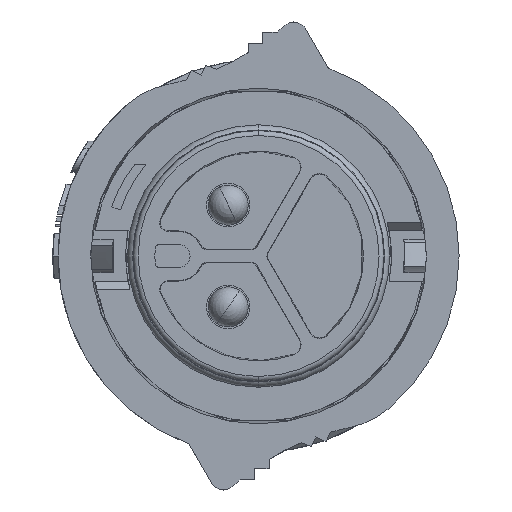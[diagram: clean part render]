
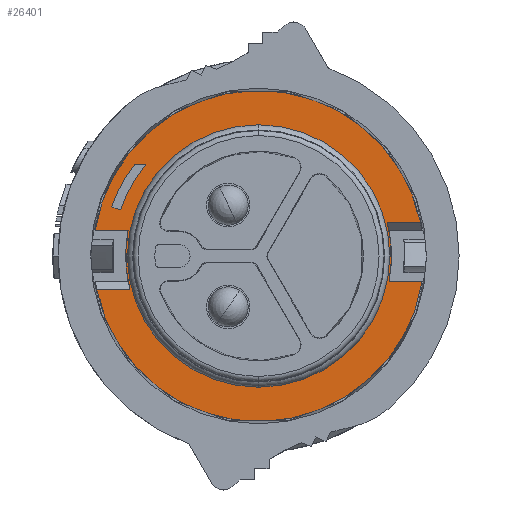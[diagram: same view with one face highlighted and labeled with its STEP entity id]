
A CAD part, left-side view. The second image highlights one B-rep face of the part: STEP entity #26401.
In plain terms, the highlighted planar face has unit normal (-1, 0, 0).
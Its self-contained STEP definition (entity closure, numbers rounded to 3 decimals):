
#3847=CARTESIAN_POINT('',(-16.7,0.,0.));
#3848=DIRECTION('',(-1.,0.,0.));
#3849=DIRECTION('',(0.,0.982,0.189));
#3850=AXIS2_PLACEMENT_3D('',#3847,#3848,#3849);
#3861=CARTESIAN_POINT('',(-16.7,0.,0.));
#3862=DIRECTION('',(-1.,0.,0.));
#3863=DIRECTION('',(0.,-0.982,-0.189));
#3864=AXIS2_PLACEMENT_3D('',#3861,#3862,#3863);
#3942=CARTESIAN_POINT('',(-16.7,-9.696,2.));
#3947=CARTESIAN_POINT('',(-16.7,0.,0.));
#3948=DIRECTION('',(-1.,0.,0.));
#3949=DIRECTION('',(0.,-0.979,0.202));
#3950=AXIS2_PLACEMENT_3D('',#3947,#3948,#3949);
#3991=DIRECTION('',(0.,1.,0.));
#3992=VECTOR('',#3991,2.002);
#3993=CARTESIAN_POINT('',(-16.7,7.694,-2.));
#3994=LINE('',#3993,#3992);
#3995=DIRECTION('',(0.,-1.,0.));
#3996=VECTOR('',#3995,1.978);
#3997=CARTESIAN_POINT('',(-16.7,9.786,1.5));
#3998=LINE('',#3997,#3996);
#3999=DIRECTION('',(0.,-1.,0.));
#4000=VECTOR('',#3999,2.002);
#4001=CARTESIAN_POINT('',(-16.7,-7.694,2.));
#4002=LINE('',#4001,#4000);
#4003=DIRECTION('',(0.,1.,0.));
#4004=VECTOR('',#4003,1.978);
#4005=CARTESIAN_POINT('',(-16.7,-9.786,-1.5));
#4006=LINE('',#4005,#4004);
#4007=CARTESIAN_POINT('',(-16.7,0.01,-0.132));
#4008=DIRECTION('',(-1.,0.,0.));
#4009=DIRECTION('',(0.,0.796,0.606));
#4010=AXIS2_PLACEMENT_3D('',#4007,#4008,#4009);
#4012=DIRECTION('',(0.,-0.949,-0.316));
#4013=VECTOR('',#4012,0.567);
#4014=CARTESIAN_POINT('',(-16.7,8.791,2.933));
#4015=LINE('',#4014,#4013);
#4016=CARTESIAN_POINT('',(-16.7,0.,0.));
#4017=DIRECTION('',(-1.,0.,0.));
#4018=DIRECTION('',(0.,0.775,0.632));
#4019=AXIS2_PLACEMENT_3D('',#4016,#4017,#4018);
#4021=DIRECTION('',(0.,1.,0.));
#4022=VECTOR('',#4021,0.67);
#4023=CARTESIAN_POINT('',(-16.7,6.741,5.5));
#4024=LINE('',#4023,#4022);
#4025=CARTESIAN_POINT('',(-16.7,0.,0.));
#4026=DIRECTION('',(-1.,0.,0.));
#4027=DIRECTION('',(0.,-0.065,0.998));
#4028=AXIS2_PLACEMENT_3D('',#4025,#4026,#4027);
#4030=DIRECTION('',(0.,0.,-1.));
#4031=VECTOR('',#4030,0.1);
#4032=CARTESIAN_POINT('',(-16.7,0.5,7.634));
#4033=LINE('',#4032,#4031);
#4034=DIRECTION('',(0.,1.,0.));
#4035=VECTOR('',#4034,0.1);
#4036=CARTESIAN_POINT('',(-16.7,7.533,0.5));
#4037=LINE('',#4036,#4035);
#4038=CARTESIAN_POINT('',(-16.7,0.,0.));
#4039=DIRECTION('',(-1.,0.,0.));
#4040=DIRECTION('',(0.,0.998,0.065));
#4041=AXIS2_PLACEMENT_3D('',#4038,#4039,#4040);
#4043=DIRECTION('',(0.,-1.,0.));
#4044=VECTOR('',#4043,0.1);
#4045=CARTESIAN_POINT('',(-16.7,7.634,-0.5));
#4046=LINE('',#4045,#4044);
#4047=DIRECTION('',(0.,0.,-1.));
#4048=VECTOR('',#4047,0.1);
#4049=CARTESIAN_POINT('',(-16.7,0.5,-7.533));
#4050=LINE('',#4049,#4048);
#4051=CARTESIAN_POINT('',(-16.7,0.,0.));
#4052=DIRECTION('',(-1.,0.,0.));
#4053=DIRECTION('',(0.,0.065,-0.998));
#4054=AXIS2_PLACEMENT_3D('',#4051,#4052,#4053);
#4056=DIRECTION('',(0.,0.,1.));
#4057=VECTOR('',#4056,0.1);
#4058=CARTESIAN_POINT('',(-16.7,-0.5,-7.634));
#4059=LINE('',#4058,#4057);
#4060=DIRECTION('',(0.,-1.,0.));
#4061=VECTOR('',#4060,0.1);
#4062=CARTESIAN_POINT('',(-16.7,-7.533,-0.5));
#4063=LINE('',#4062,#4061);
#4064=CARTESIAN_POINT('',(-16.7,0.,0.));
#4065=DIRECTION('',(-1.,0.,0.));
#4066=DIRECTION('',(0.,-0.998,-0.065));
#4067=AXIS2_PLACEMENT_3D('',#4064,#4065,#4066);
#4069=DIRECTION('',(0.,1.,0.));
#4070=VECTOR('',#4069,0.1);
#4071=CARTESIAN_POINT('',(-16.7,-7.634,0.5));
#4072=LINE('',#4071,#4070);
#4073=DIRECTION('',(0.,0.,1.));
#4074=VECTOR('',#4073,0.1);
#4075=CARTESIAN_POINT('',(-16.7,-0.5,7.533));
#4076=LINE('',#4075,#4074);
#4091=CARTESIAN_POINT('',(-16.7,9.696,-2.));
#4096=CARTESIAN_POINT('',(-16.7,0.,0.));
#4097=DIRECTION('',(-1.,0.,0.));
#4098=DIRECTION('',(0.,0.979,-0.202));
#4099=AXIS2_PLACEMENT_3D('',#4096,#4097,#4098);
#4152=CARTESIAN_POINT('',(-16.7,-0.5,7.634));
#4219=CARTESIAN_POINT('',(-16.7,0.,0.));
#4220=DIRECTION('',(1.,0.,0.));
#4221=DIRECTION('',(0.,0.998,0.066));
#4222=AXIS2_PLACEMENT_3D('',#4219,#4220,#4221);
#4229=CARTESIAN_POINT('',(-16.7,0.5,7.634));
#4236=CARTESIAN_POINT('',(-16.7,7.634,0.5));
#4243=CARTESIAN_POINT('',(-16.7,7.634,-0.5));
#4258=CARTESIAN_POINT('',(-16.7,0.,0.));
#4259=DIRECTION('',(1.,0.,0.));
#4260=DIRECTION('',(0.,0.066,-0.998));
#4261=AXIS2_PLACEMENT_3D('',#4258,#4259,#4260);
#4268=CARTESIAN_POINT('',(-16.7,0.5,-7.634));
#4275=CARTESIAN_POINT('',(-16.7,-0.5,-7.634));
#4290=CARTESIAN_POINT('',(-16.7,0.,0.));
#4291=DIRECTION('',(1.,0.,0.));
#4292=DIRECTION('',(0.,-0.998,-0.066));
#4293=AXIS2_PLACEMENT_3D('',#4290,#4291,#4292);
#4313=CARTESIAN_POINT('',(-16.7,0.,0.));
#4314=DIRECTION('',(1.,0.,0.));
#4315=DIRECTION('',(0.,-0.066,0.998));
#4316=AXIS2_PLACEMENT_3D('',#4313,#4314,#4315);
#20053=CARTESIAN_POINT('',(-16.7,9.786,1.5));
#20054=CARTESIAN_POINT('',(-16.7,7.807,1.5));
#20055=VERTEX_POINT('',#20053);
#20056=VERTEX_POINT('',#20054);
#20057=CARTESIAN_POINT('',(-16.7,-9.786,-1.5));
#20058=CARTESIAN_POINT('',(-16.7,-7.807,-1.5));
#20059=VERTEX_POINT('',#20057);
#20060=VERTEX_POINT('',#20058);
#20083=CARTESIAN_POINT('',(-16.7,7.411,5.5));
#20084=CARTESIAN_POINT('',(-16.7,8.791,2.933));
#20085=VERTEX_POINT('',#20083);
#20086=VERTEX_POINT('',#20084);
#20087=CARTESIAN_POINT('',(-16.7,6.741,5.5));
#20088=CARTESIAN_POINT('',(-16.7,8.253,2.753));
#20089=VERTEX_POINT('',#20087);
#20090=VERTEX_POINT('',#20088);
#20113=VERTEX_POINT('',#4091);
#20117=CARTESIAN_POINT('',(-16.7,7.694,-2.));
#20118=VERTEX_POINT('',#20117);
#20119=VERTEX_POINT('',#3942);
#20123=CARTESIAN_POINT('',(-16.7,-7.694,2.));
#20124=VERTEX_POINT('',#20123);
#20142=CARTESIAN_POINT('',(-16.7,-7.533,0.5));
#20144=VERTEX_POINT('',#20142);
#20145=CARTESIAN_POINT('',(-16.7,-7.533,-0.5));
#20147=VERTEX_POINT('',#20145);
#20153=CARTESIAN_POINT('',(-16.7,-7.634,-0.5));
#20154=CARTESIAN_POINT('',(-16.7,-7.634,0.5));
#20155=VERTEX_POINT('',#20153);
#20156=VERTEX_POINT('',#20154);
#20158=CARTESIAN_POINT('',(-16.7,-0.5,-7.533));
#20160=VERTEX_POINT('',#20158);
#20161=CARTESIAN_POINT('',(-16.7,0.5,-7.533));
#20163=VERTEX_POINT('',#20161);
#20169=VERTEX_POINT('',#4268);
#20170=VERTEX_POINT('',#4275);
#20172=CARTESIAN_POINT('',(-16.7,7.533,-0.5));
#20174=VERTEX_POINT('',#20172);
#20175=CARTESIAN_POINT('',(-16.7,7.533,0.5));
#20177=VERTEX_POINT('',#20175);
#20183=VERTEX_POINT('',#4236);
#20184=VERTEX_POINT('',#4243);
#20186=CARTESIAN_POINT('',(-16.7,0.5,7.533));
#20188=VERTEX_POINT('',#20186);
#20189=CARTESIAN_POINT('',(-16.7,-0.5,7.533));
#20191=VERTEX_POINT('',#20189);
#20197=VERTEX_POINT('',#4152);
#20198=VERTEX_POINT('',#4229);
#26338=CARTESIAN_POINT('',(-16.7,0.,0.));
#26339=DIRECTION('',(1.,0.,0.));
#26340=DIRECTION('',(0.,0.,1.));
#26341=AXIS2_PLACEMENT_3D('',#26338,#26339,#26340);
#26342=PLANE('',#26341);
#26344=ORIENTED_EDGE('',*,*,#26343,.F.);
#26345=ORIENTED_EDGE('',*,*,#26217,.F.);
#26347=ORIENTED_EDGE('',*,*,#26346,.F.);
#26348=ORIENTED_EDGE('',*,*,#26304,.F.);
#26349=ORIENTED_EDGE('',*,*,#26333,.F.);
#26350=ORIENTED_EDGE('',*,*,#26233,.F.);
#26352=ORIENTED_EDGE('',*,*,#26351,.F.);
#26354=ORIENTED_EDGE('',*,*,#26353,.F.);
#26355=EDGE_LOOP('',(#26344,#26345,#26347,#26348,#26349,#26350,#26352,#26354));
#26356=FACE_OUTER_BOUND('',#26355,.F.);
#26358=ORIENTED_EDGE('',*,*,#26357,.T.);
#26360=ORIENTED_EDGE('',*,*,#26359,.T.);
#26362=ORIENTED_EDGE('',*,*,#26361,.F.);
#26364=ORIENTED_EDGE('',*,*,#26363,.T.);
#26365=EDGE_LOOP('',(#26358,#26360,#26362,#26364));
#26366=FACE_BOUND('',#26365,.F.);
#26368=ORIENTED_EDGE('',*,*,#26367,.T.);
#26370=ORIENTED_EDGE('',*,*,#26369,.T.);
#26372=ORIENTED_EDGE('',*,*,#26371,.F.);
#26374=ORIENTED_EDGE('',*,*,#26373,.T.);
#26376=ORIENTED_EDGE('',*,*,#26375,.T.);
#26378=ORIENTED_EDGE('',*,*,#26377,.T.);
#26380=ORIENTED_EDGE('',*,*,#26379,.F.);
#26382=ORIENTED_EDGE('',*,*,#26381,.T.);
#26384=ORIENTED_EDGE('',*,*,#26383,.T.);
#26386=ORIENTED_EDGE('',*,*,#26385,.T.);
#26388=ORIENTED_EDGE('',*,*,#26387,.F.);
#26390=ORIENTED_EDGE('',*,*,#26389,.T.);
#26392=ORIENTED_EDGE('',*,*,#26391,.T.);
#26394=ORIENTED_EDGE('',*,*,#26393,.T.);
#26396=ORIENTED_EDGE('',*,*,#26395,.F.);
#26398=ORIENTED_EDGE('',*,*,#26397,.T.);
#26399=EDGE_LOOP('',(#26368,#26370,#26372,#26374,#26376,#26378,#26380,#26382,
#26384,#26386,#26388,#26390,#26392,#26394,#26396,#26398));
#26400=FACE_BOUND('',#26399,.F.);
#26401=ADVANCED_FACE('',(#26356,#26366,#26400),#26342,.F.);
#3851=CIRCLE('',#3850,7.95);
#3865=CIRCLE('',#3864,7.95);
#3951=CIRCLE('',#3950,9.9);
#4011=CIRCLE('',#4010,9.3);
#4020=CIRCLE('',#4019,8.7);
#4029=CIRCLE('',#4028,7.65);
#4042=CIRCLE('',#4041,7.65);
#4055=CIRCLE('',#4054,7.65);
#4068=CIRCLE('',#4067,7.65);
#4100=CIRCLE('',#4099,9.9);
#4223=CIRCLE('',#4222,7.55);
#4262=CIRCLE('',#4261,7.55);
#4294=CIRCLE('',#4293,7.55);
#4317=CIRCLE('',#4316,7.55);
#26217=EDGE_CURVE('',#20056,#20118,#3851,.T.);
#26233=EDGE_CURVE('',#20060,#20124,#3865,.T.);
#26304=EDGE_CURVE('',#20119,#20055,#3951,.T.);
#26333=EDGE_CURVE('',#20124,#20119,#4002,.T.);
#26343=EDGE_CURVE('',#20118,#20113,#3994,.T.);
#26346=EDGE_CURVE('',#20055,#20056,#3998,.T.);
#26351=EDGE_CURVE('',#20059,#20060,#4006,.T.);
#26353=EDGE_CURVE('',#20113,#20059,#4100,.T.);
#26357=EDGE_CURVE('',#20085,#20086,#4011,.T.);
#26359=EDGE_CURVE('',#20086,#20090,#4015,.T.);
#26361=EDGE_CURVE('',#20089,#20090,#4020,.T.);
#26363=EDGE_CURVE('',#20089,#20085,#4024,.T.);
#26367=EDGE_CURVE('',#20197,#20198,#4029,.T.);
#26369=EDGE_CURVE('',#20198,#20188,#4033,.T.);
#26371=EDGE_CURVE('',#20177,#20188,#4223,.T.);
#26373=EDGE_CURVE('',#20177,#20183,#4037,.T.);
#26375=EDGE_CURVE('',#20183,#20184,#4042,.T.);
#26377=EDGE_CURVE('',#20184,#20174,#4046,.T.);
#26379=EDGE_CURVE('',#20163,#20174,#4262,.T.);
#26381=EDGE_CURVE('',#20163,#20169,#4050,.T.);
#26383=EDGE_CURVE('',#20169,#20170,#4055,.T.);
#26385=EDGE_CURVE('',#20170,#20160,#4059,.T.);
#26387=EDGE_CURVE('',#20147,#20160,#4294,.T.);
#26389=EDGE_CURVE('',#20147,#20155,#4063,.T.);
#26391=EDGE_CURVE('',#20155,#20156,#4068,.T.);
#26393=EDGE_CURVE('',#20156,#20144,#4072,.T.);
#26395=EDGE_CURVE('',#20191,#20144,#4317,.T.);
#26397=EDGE_CURVE('',#20191,#20197,#4076,.T.);
